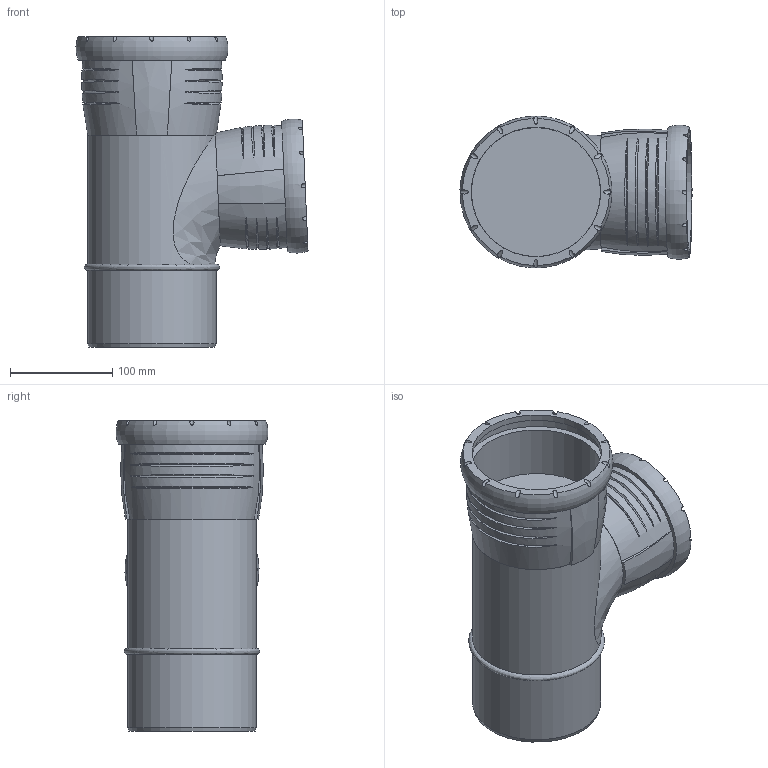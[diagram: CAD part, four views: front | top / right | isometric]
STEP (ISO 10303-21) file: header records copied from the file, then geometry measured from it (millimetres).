
FILE_DESCRIPTION(/* description */ (''),/* implementation_level */ '2;1');
FILE_NAME(/* name */ 'H:\Geberit-Teile\Export\Abzweig PP\stp\393651.stp',/* time_stamp */ '2017-02-13T13:23:51+01:00',/* author */ ('seihe2'),/* organization */ (''),/* preprocessor_version */ 'ST-DEVELOPER v15.2',/* originating_system */ 'Autodesk Inventor 2014',/* authorisation */ '');
FILE_SCHEMA (('AUTOMOTIVE_DESIGN { 1 0 10303 214 3 1 1 }'));
Length unit declared in the file: millimetre
Products named in the file (1): 393651
Bounding box: 226.53 x 148.35 x 303 mm (x, y, z)
Volume: 2968230.6 mm3; surface area: 349424 mm2
Topology: 5 solids, 5 shells, 106 faces, 245 edges, 174 vertices
Faces by surface type: bspline 46, cylinder 37, plane 20, torus 2, cone 1
Full cylindrical faces by diameter (mm): 90 x1, 95.978 x1, 111 x1, 111.3 x1, 115.2 x1, 121.5 x1, 125.2 x2, 126 x1, 126.4 x1, 138.1 x1
Entity records: 7770 total; most frequent: CARTESIAN_POINT 5598, ORIENTED_EDGE 452, DIRECTION 321, EDGE_CURVE 225, VERTEX_POINT 168, AXIS2_PLACEMENT_3D 160, EDGE_LOOP 149, B_SPLINE_CURVE_WITH_KNOTS 125
